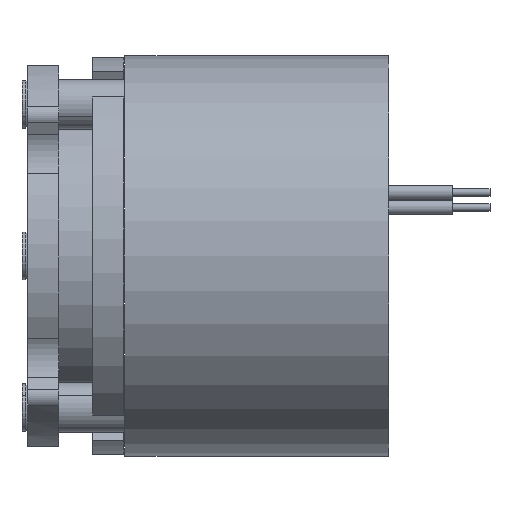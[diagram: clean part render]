
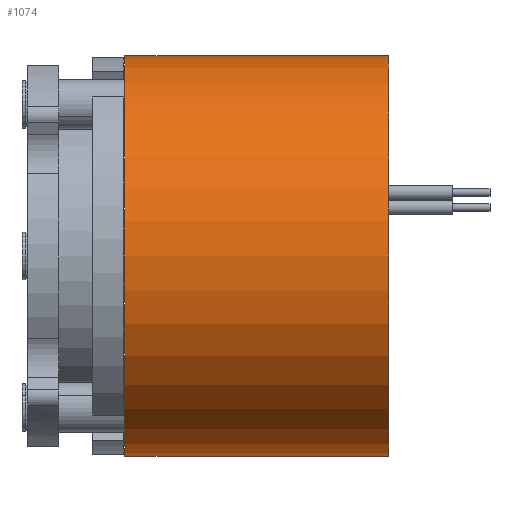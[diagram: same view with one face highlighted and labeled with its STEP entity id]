
A CAD part, front view. The second image highlights one B-rep face of the part: STEP entity #1074.
In plain terms, the highlighted cylindrical face has radius 16 mm (diameter 32 mm), a partial arc.
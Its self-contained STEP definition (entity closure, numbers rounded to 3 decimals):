
#128 = CARTESIAN_POINT ( 'NONE',  ( 0., 0., -16. ) ) ;
#204 = CIRCLE ( 'NONE', #854, 16. ) ;
#390 = CARTESIAN_POINT ( 'NONE',  ( 21.1, 0., 16. ) ) ;
#814 = AXIS2_PLACEMENT_3D ( 'NONE', #1457, #3288, #984 ) ;
#854 = AXIS2_PLACEMENT_3D ( 'NONE', #3915, #1832, #4272 ) ;
#872 = DIRECTION ( 'NONE',  ( 0., 0., 1. ) ) ;
#921 = ORIENTED_EDGE ( 'NONE', *, *, #3058, .T. ) ;
#984 = DIRECTION ( 'NONE',  ( 0., 0., 1. ) ) ;
#1072 = CIRCLE ( 'NONE', #2632, 16. ) ;
#1074 = ADVANCED_FACE ( 'NONE', ( #1340 ), #1307, .T. ) ;
#1165 = ORIENTED_EDGE ( 'NONE', *, *, #1537, .T. ) ;
#1307 = CYLINDRICAL_SURFACE ( 'NONE', #814, 16. ) ;
#1340 = FACE_OUTER_BOUND ( 'NONE', #3754, .T. ) ;
#1457 = CARTESIAN_POINT ( 'NONE',  ( 0., 0., 0. ) ) ;
#1480 = ORIENTED_EDGE ( 'NONE', *, *, #4205, .F. ) ;
#1537 = EDGE_CURVE ( 'NONE', #2283, #2251, #1072, .T. ) ;
#1659 = CARTESIAN_POINT ( 'NONE',  ( 21.1, 0., 0. ) ) ;
#1700 = CARTESIAN_POINT ( 'NONE',  ( 0., 0., -16. ) ) ;
#1832 = DIRECTION ( 'NONE',  ( -1., 0., 0. ) ) ;
#2251 = VERTEX_POINT ( 'NONE', #390 ) ;
#2283 = VERTEX_POINT ( 'NONE', #2634 ) ;
#2450 = VECTOR ( 'NONE', #4364, 1000. ) ;
#2632 = AXIS2_PLACEMENT_3D ( 'NONE', #1659, #4110, #872 ) ;
#2634 = CARTESIAN_POINT ( 'NONE',  ( 21.1, 0., -16. ) ) ;
#3058 = EDGE_CURVE ( 'NONE', #2251, #3899, #3271, .T. ) ;
#3088 = CARTESIAN_POINT ( 'NONE',  ( 0., 0., 16. ) ) ;
#3271 = LINE ( 'NONE', #3611, #2450 ) ;
#3288 = DIRECTION ( 'NONE',  ( -1., 0., 0. ) ) ;
#3367 = ORIENTED_EDGE ( 'NONE', *, *, #3499, .F. ) ;
#3499 = EDGE_CURVE ( 'NONE', #2283, #4225, #4264, .T. ) ;
#3611 = CARTESIAN_POINT ( 'NONE',  ( 0., 0., 16. ) ) ;
#3754 = EDGE_LOOP ( 'NONE', ( #3367, #1165, #921, #1480 ) ) ;
#3899 = VERTEX_POINT ( 'NONE', #3088 ) ;
#3915 = CARTESIAN_POINT ( 'NONE',  ( 0., 0., 0. ) ) ;
#4110 = DIRECTION ( 'NONE',  ( -1., 0., 0. ) ) ;
#4205 = EDGE_CURVE ( 'NONE', #4225, #3899, #204, .T. ) ;
#4225 = VERTEX_POINT ( 'NONE', #128 ) ;
#4264 = LINE ( 'NONE', #1700, #4293 ) ;
#4272 = DIRECTION ( 'NONE',  ( 0., 0., 1. ) ) ;
#4293 = VECTOR ( 'NONE', #4520, 1000. ) ;
#4364 = DIRECTION ( 'NONE',  ( -1., 0., 0. ) ) ;
#4520 = DIRECTION ( 'NONE',  ( -1., 0., 0. ) ) ;
